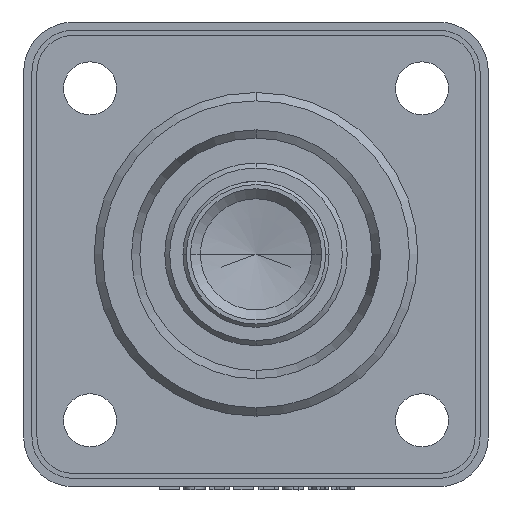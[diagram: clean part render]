
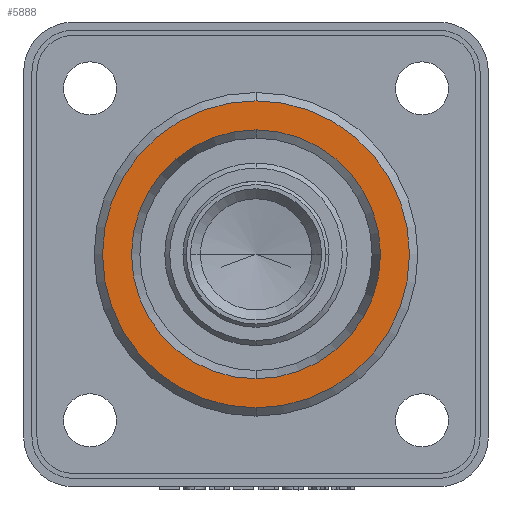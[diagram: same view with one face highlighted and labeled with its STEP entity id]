
A CAD part, front view. The second image highlights one B-rep face of the part: STEP entity #5888.
In plain terms, the highlighted planar face has unit normal (0, -1, 0).
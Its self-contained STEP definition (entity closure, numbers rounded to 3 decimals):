
#1005 = CARTESIAN_POINT ( 'NONE',  ( -2.212, -16.939, 9.022 ) ) ;
#1009 = CARTESIAN_POINT ( 'NONE',  ( -2.212, -16.939, 7.272 ) ) ;
#1029 = CARTESIAN_POINT ( 'NONE',  ( -2.212, -16.939, -7.728 ) ) ;
#1052 = CARTESIAN_POINT ( 'NONE',  ( -2.212, -16.939, -9.478 ) ) ;
#1599 = FACE_BOUND ( 'NONE', #4705, .T. ) ;
#1600 = FACE_OUTER_BOUND ( 'NONE', #4689, .T. ) ;
#2854 = EDGE_CURVE ( 'NONE', #12162, #12142, #3198, .T. ) ;
#2859 = EDGE_CURVE ( 'NONE', #12247, #12138, #3147, .T. ) ;
#2937 = AXIS2_PLACEMENT_3D ( 'NONE', #3688, #3689, #3691 ) ;
#2942 = AXIS2_PLACEMENT_3D ( 'NONE', #3701, #3704, #3705 ) ;
#3147 = CIRCLE ( 'NONE', #2942, 9.25 ) ;
#3198 = CIRCLE ( 'NONE', #2937, 7.5 ) ;
#3688 = CARTESIAN_POINT ( 'NONE',  ( -2.212, -16.939, -0.228 ) ) ;
#3689 = DIRECTION ( 'NONE',  ( 0., 1., 0. ) ) ;
#3691 = DIRECTION ( 'NONE',  ( 0., 0., -1. ) ) ;
#3701 = CARTESIAN_POINT ( 'NONE',  ( -2.212, -16.939, -0.228 ) ) ;
#3704 = DIRECTION ( 'NONE',  ( 0., -1., 0. ) ) ;
#3705 = DIRECTION ( 'NONE',  ( 0., 0., -1. ) ) ;
#4689 = EDGE_LOOP ( 'NONE', ( #5962, #5932 ) ) ;
#4705 = EDGE_LOOP ( 'NONE', ( #5956, #5955 ) ) ;
#5581 = AXIS2_PLACEMENT_3D ( 'NONE', #10823, #10824, #10825 ) ;
#5888 = ADVANCED_FACE ( 'NONE', ( #1599, #1600 ), #10816, .F. ) ;
#5932 = ORIENTED_EDGE ( 'NONE', *, *, #17088, .T. ) ;
#5955 = ORIENTED_EDGE ( 'NONE', *, *, #2854, .T. ) ;
#5956 = ORIENTED_EDGE ( 'NONE', *, *, #16975, .T. ) ;
#5962 = ORIENTED_EDGE ( 'NONE', *, *, #2859, .T. ) ;
#10816 = PLANE ( 'NONE',  #5581 ) ;
#10823 = CARTESIAN_POINT ( 'NONE',  ( -7.062, -16.939, -0.228 ) ) ;
#10824 = DIRECTION ( 'NONE',  ( 0., 1., 0. ) ) ;
#10825 = DIRECTION ( 'NONE',  ( 0., 0., -1. ) ) ;
#12138 = VERTEX_POINT ( 'NONE', #1005 ) ;
#12142 = VERTEX_POINT ( 'NONE', #1009 ) ;
#12162 = VERTEX_POINT ( 'NONE', #1029 ) ;
#12247 = VERTEX_POINT ( 'NONE', #1052 ) ;
#14267 = CIRCLE ( 'NONE', #15827, 7.5 ) ;
#14441 = CIRCLE ( 'NONE', #15925, 9.25 ) ;
#15196 = CARTESIAN_POINT ( 'NONE',  ( -2.212, -16.939, -0.228 ) ) ;
#15197 = DIRECTION ( 'NONE',  ( 0., 1., 0. ) ) ;
#15198 = DIRECTION ( 'NONE',  ( 0., 0., -1. ) ) ;
#15511 = CARTESIAN_POINT ( 'NONE',  ( -2.212, -16.939, -0.228 ) ) ;
#15512 = DIRECTION ( 'NONE',  ( 0., -1., 0. ) ) ;
#15513 = DIRECTION ( 'NONE',  ( 0., 0., -1. ) ) ;
#15827 = AXIS2_PLACEMENT_3D ( 'NONE', #15196, #15197, #15198 ) ;
#15925 = AXIS2_PLACEMENT_3D ( 'NONE', #15511, #15512, #15513 ) ;
#16975 = EDGE_CURVE ( 'NONE', #12142, #12162, #14267, .T. ) ;
#17088 = EDGE_CURVE ( 'NONE', #12138, #12247, #14441, .T. ) ;
